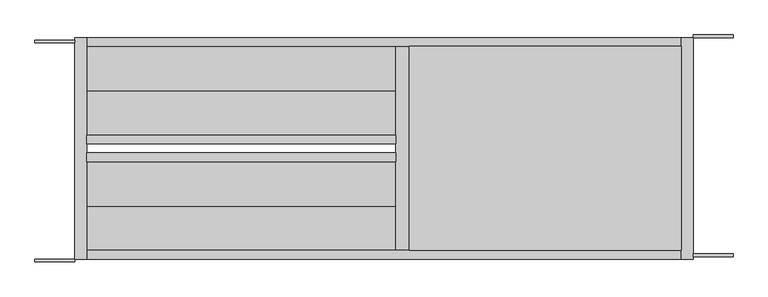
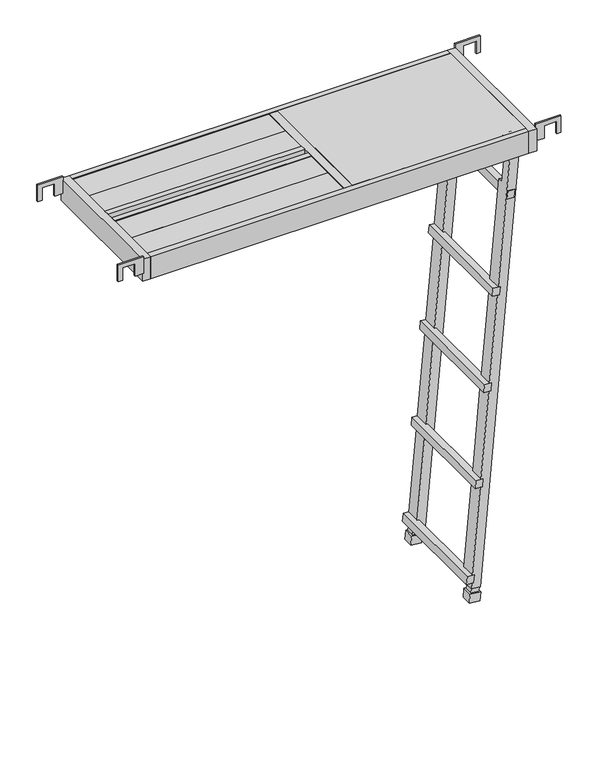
"""IFC4 building model written with IfcOpenShell, lengths in millimetres: proxy geometry, AK_アルミハッチ式布板HF-515HT(タラップ式)_軽 : AK_アルミハッチ式布板HF-515HT(タラップ式)_軽."""

import ifcopenshell
import ifcopenshell.guid

model = None  # the IFC model being written
_history = None  # IfcOwnerHistory: only IFC2X3 demands one
_inside = {}  # id of a spatial element -> (the spatial element, [elements in it])
_under = {}  # id of a project, library or spatial element -> (it, [spatial elements below it])
_declared = {}  # id of a project -> (the project, [libraries it declares])
_typed = {}  # id of a type object -> (the type object, [elements of that type])
_made_of = {}  # id of a material, layer set ... -> (it, [elements and type objects made of it])


def new_model(schema):
    """Start an empty IFC model of exactly this schema.

    Asked for "IFC4X3", IfcOpenShell would pick the latest addendum, in which some entities
    have other attributes; the version numbers below select the first issue.
    IFC2X3 requires an IfcOwnerHistory on every rooted entity: one is made here for all.
    """
    global model, _history
    if schema == "IFC4X3":
        model = ifcopenshell.file(schema_version=(4, 3, 0, 0))
    else:
        model = ifcopenshell.file(schema=schema)
    _inside.clear()
    _under.clear()
    _declared.clear()
    _typed.clear()
    _made_of.clear()
    _history = None
    if model.schema == "IFC2X3":
        org = make("IfcOrganization", Name="unknown")
        user = make(
            "IfcPersonAndOrganization",
            ThePerson=make("IfcPerson", FamilyName="unknown"),
            TheOrganization=org,
        )
        app = make(
            "IfcApplication",
            ApplicationDeveloper=org,
            Version="unknown",
            ApplicationFullName="unknown",
            ApplicationIdentifier="unknown",
        )
        _history = make(
            "IfcOwnerHistory",
            OwningUser=user,
            OwningApplication=app,
            ChangeAction="ADDED",
            CreationDate=0,
        )
    return model


def make(cls, **values):
    """One entity of the class cls with the attributes given. An attribute that is None is left unset."""
    return model.create_entity(
        cls, **{name: value for name, value in values.items() if value is not None}
    )


def rooted(cls, **values):
    """An entity with a GlobalId (a new one), such as an element, a storey or a relation."""
    return make(cls, GlobalId=ifcopenshell.guid.new(), OwnerHistory=_history, **values)


def si_unit(unit_type, name, prefix=None):
    """IfcSIUnit, for example si_unit("LENGTHUNIT", "METRE", prefix="MILLI")."""
    return make("IfcSIUnit", UnitType=unit_type, Prefix=prefix, Name=name)


def assignment(units):
    """IfcUnitAssignment: the units of a project."""
    return None if units is None else make("IfcUnitAssignment", Units=units)


def point(xyz):
    """IfcCartesianPoint."""
    return None if xyz is None else make("IfcCartesianPoint", Coordinates=xyz)


def direction(xyz):
    """IfcDirection."""
    return None if xyz is None else make("IfcDirection", DirectionRatios=xyz)


def frame(location, z_axis=None, x_axis=None):
    """IfcAxis2Placement3D, a coordinate frame: its origin and axes. An axis left out is left unset."""
    return make(
        "IfcAxis2Placement3D",
        Location=point(location),
        Axis=direction(z_axis),
        RefDirection=direction(x_axis),
    )


def origin():
    """The frame at (0, 0, 0) with its axes left unset."""
    return frame((0.0, 0.0, 0.0))


def place(relative_to, where):
    """IfcLocalPlacement: puts the frame where relative to a parent placement (None: the world)."""
    return make(
        "IfcLocalPlacement", PlacementRelTo=relative_to, RelativePlacement=where
    )


def context(
    kind, dimensions, precision=None, world=None, true_north=None, identifier=None
):
    """IfcGeometricRepresentationContext, for example the 3D "Model" context."""
    return make(
        "IfcGeometricRepresentationContext",
        ContextIdentifier=identifier,
        ContextType=kind,
        CoordinateSpaceDimension=dimensions,
        Precision=precision,
        WorldCoordinateSystem=world,
        TrueNorth=true_north,
    )


def project(units=None, contexts=None):
    """IfcProject with its units and contexts."""
    return rooted(
        "IfcProject",
        Name="project",
        RepresentationContexts=contexts,
        UnitsInContext=assignment(units),
    )


def spatial(cls, under=None, at=None, **own):
    """A site, building, storey or space (cls), placed at a placement, below another one or the project."""
    s = rooted(cls, ObjectPlacement=at, **own)
    if under is not None:
        _under.setdefault(under.id(), (under, []))[1].append(s)
    return s


def polyline(points):
    """IfcPolyline through the points."""
    return make("IfcPolyline", Points=[point(p) for p in points])


def circle_curve(where, radius):
    """IfcCircle in the frame where."""
    return make("IfcCircle", Position=where, Radius=radius)


def ellipse_curve(where, semi_axis1, semi_axis2):
    """IfcEllipse in the frame where."""
    return make(
        "IfcEllipse", Position=where, SemiAxis1=semi_axis1, SemiAxis2=semi_axis2
    )


def trimmed(basis, trim1, trim2, sense, master):
    """IfcTrimmedCurve: the piece of a basis curve between two trims."""
    return make(
        "IfcTrimmedCurve",
        BasisCurve=basis,
        Trim1=trim1,
        Trim2=trim2,
        SenseAgreement=sense,
        MasterRepresentation=master,
    )


def outline(outer, holes=None, kind="AREA"):
    """IfcArbitraryClosedProfileDef: a profile drawn as a closed curve; with holes, ...WithVoids."""
    if holes is None:
        return make("IfcArbitraryClosedProfileDef", ProfileType=kind, OuterCurve=outer)
    return make(
        "IfcArbitraryProfileDefWithVoids",
        ProfileType=kind,
        OuterCurve=outer,
        InnerCurves=holes,
    )


def extrude(swept, where, along, depth):
    """IfcExtrudedAreaSolid: the profile swept, set in the frame where, extruded along a direction by depth."""
    return make(
        "IfcExtrudedAreaSolid",
        SweptArea=swept,
        Position=where,
        ExtrudedDirection=direction(along),
        Depth=depth,
    )


def faces_of(points, faces, orient=None, outer=None):
    """IfcFace entities. A face is a list of loops; a loop is a list of indices into points, from 0.

    orient and outer hold one flag for each loop. By default every Orientation is true, the
    first loop of a face is its IfcFaceOuterBound and the others are IfcFaceBound.
    """
    made = []
    for i, loops in enumerate(faces):
        bounds = []
        for j, loop in enumerate(loops):
            is_outer = j == 0 if outer is None else outer[i][j]
            bounds.append(
                make(
                    "IfcFaceOuterBound" if is_outer else "IfcFaceBound",
                    Bound=make("IfcPolyLoop", Polygon=[points[k] for k in loop]),
                    Orientation=True if orient is None else orient[i][j],
                )
            )
        made.append(make("IfcFace", Bounds=bounds))
    return made


def faceted_brep(points, faces, orient=None, outer=None, voids=None):
    """IfcFacetedBrep: a solid bounded by flat faces; with voids (closed shells), ...WithVoids."""
    shared = [point(p) for p in points]
    hull = make("IfcClosedShell", CfsFaces=faces_of(shared, faces, orient, outer))
    if voids is None:
        return make("IfcFacetedBrep", Outer=hull)
    return make(
        "IfcFacetedBrepWithVoids",
        Outer=hull,
        Voids=[
            make(cls, CfsFaces=faces_of(shared, fs, o, b)) for cls, fs, o, b in voids
        ],
    )


def shape(context_of_items, identifier, shape_type, items):
    """IfcShapeRepresentation: the items that make up one representation, for example the "Body"."""
    return make(
        "IfcShapeRepresentation",
        ContextOfItems=context_of_items,
        RepresentationIdentifier=identifier,
        RepresentationType=shape_type,
        Items=items,
    )


def source(mapping_origin, context_of_items, identifier, shape_type, items):
    """IfcRepresentationMap: a shape defined once, which mapped items show again and again."""
    return make(
        "IfcRepresentationMap",
        MappingOrigin=mapping_origin,
        MappedRepresentation=shape(context_of_items, identifier, shape_type, items),
    )


def transform(
    local_origin,
    x_axis=None,
    y_axis=None,
    z_axis=None,
    scale=None,
    scale2=None,
    scale3=None,
    uniform=True,
):
    """IfcCartesianTransformationOperator3D, or its non-uniform kind. x_axis, y_axis, z_axis: its Axis1, 2, 3."""
    if uniform:
        return make(
            "IfcCartesianTransformationOperator3D",
            Axis1=direction(x_axis),
            Axis2=direction(y_axis),
            LocalOrigin=point(local_origin),
            Scale=scale,
            Axis3=direction(z_axis),
        )
    return make(
        "IfcCartesianTransformationOperator3DnonUniform",
        Axis1=direction(x_axis),
        Axis2=direction(y_axis),
        LocalOrigin=point(local_origin),
        Scale=scale,
        Axis3=direction(z_axis),
        Scale2=scale2,
        Scale3=scale3,
    )


def mapped(mapping_source, mapping_target):
    """IfcMappedItem: shows the shape of a source again, moved by a transform."""
    return make(
        "IfcMappedItem", MappingSource=mapping_source, MappingTarget=mapping_target
    )


def made_of(thing, what):
    """Note that an element or type object is made of a material, layer set ...; save() writes the relation."""
    if what is not None:
        _made_of.setdefault(what.id(), (what, []))[1].append(thing)
    return thing


def element(
    cls,
    number,
    at=None,
    inside=None,
    cuts=None,
    type_object=None,
    material=None,
    context=None,
    identifier="Body",
    shape_type=None,
    held_by="IfcProductDefinitionShape",
    body=None,
    shapes=None,
    **own,
):
    """One element of the class cls, such as IfcWall. Its Tag is "e" and its number.

    at: its placement. inside: the storey or other place that contains it. cuts: it is an
    opening in that element (IfcRelVoidsElement). A single representation is given by context,
    identifier, shape_type and body (its items); several are given by shapes. held_by: the class
    of the entity that holds the representations. save() writes the other relations.
    """
    e = rooted(cls, Tag="e%d" % number, ObjectPlacement=at, **own)
    if body is not None:
        shapes = [shape(context, identifier, shape_type, body)]
    if shapes is not None:
        e.Representation = make(held_by, Representations=shapes)
    if inside is not None:
        _inside.setdefault(inside.id(), (inside, []))[1].append(e)
    if cuts is not None:
        rooted(
            "IfcRelVoidsElement", RelatingBuildingElement=cuts, RelatedOpeningElement=e
        )
    if type_object is not None:
        _typed.setdefault(type_object.id(), (type_object, []))[1].append(e)
    return made_of(e, material)


def aggregate(whole, parts):
    """IfcRelAggregates: a whole, such as a stair, and the parts it consists of."""
    return rooted("IfcRelAggregates", RelatingObject=whole, RelatedObjects=parts)


def save(model, path):
    """Write the relations noted so far, then the file.

    IfcRelAggregates (storeys below a building ...), IfcRelContainedInSpatialStructure (elements
    in a storey), IfcRelDefinesByType, IfcRelAssociatesMaterial and IfcRelDeclares: one each for
    every whole, place, type object, material and project.
    """
    for whole, parts in _under.values():
        aggregate(whole, parts)
    for where, things in _inside.values():
        rooted(
            "IfcRelContainedInSpatialStructure",
            RelatedElements=things,
            RelatingStructure=where,
        )
    for kind, things in _typed.values():
        rooted("IfcRelDefinesByType", RelatedObjects=things, RelatingType=kind)
    for what, things in _made_of.values():
        rooted("IfcRelAssociatesMaterial", RelatedObjects=things, RelatingMaterial=what)
    for by, libraries in _declared.values():
        rooted("IfcRelDeclares", RelatingContext=by, RelatedDefinitions=libraries)
    model.write(path)


def plane_surface(at):
    """IfcPlane: the flat surface through the origin of the frame at, square to its z axis."""
    return make("IfcPlane", Position=at)


def cylinder_surface(at, radius):
    """IfcCylindricalSurface: all points at the distance radius from the z axis of the frame at."""
    return make("IfcCylindricalSurface", Position=at, Radius=radius)


def revolved_surface(curve, axis_point, axis_direction):
    """IfcSurfaceOfRevolution: the curve turned about the line through axis_point along axis_direction."""
    return make(
        "IfcSurfaceOfRevolution",
        SweptCurve=make("IfcArbitraryOpenProfileDef", ProfileType="CURVE", Curve=curve),
        AxisPosition=make("IfcAxis1Placement", Location=point(axis_point), Axis=direction(axis_direction)),
    )


def advanced_brep(points, edges, surfaces, faces):
    """IfcAdvancedBrep: a solid bounded by faces that lie on surfaces and meet in shared edges.

    An edge is (start, end): straight between two places in points (the first is 0);
    or (start, end, curve); or (start, end, curve, False) where it runs against its curve.
    A face is (place in surfaces, loops), or (place, loops, False) where it looks against
    its surface's normal. A loop lists edges by number (the first is 1), with a minus sign
    where the edge is run from its end to its start. The first loop is the outer one.
    """
    corners = [point(p) for p in points]
    vertices = [make("IfcVertexPoint", VertexGeometry=c) for c in corners]
    made = []
    for start, end, *more in edges:
        made.append(
            make(
                "IfcEdgeCurve",
                EdgeStart=vertices[start],
                EdgeEnd=vertices[end],
                EdgeGeometry=more[0] if more else make("IfcPolyline", Points=[corners[start], corners[end]]),
                SameSense=more[1] if len(more) > 1 else True,
            )
        )
    hull = []
    for where, loops, *sense in faces:
        bounds = []
        for j, loop in enumerate(loops):
            ring = [make("IfcOrientedEdge", EdgeElement=made[abs(k) - 1], Orientation=k > 0) for k in loop]
            bounds.append(
                make(
                    "IfcFaceOuterBound" if j == 0 else "IfcFaceBound",
                    Bound=make("IfcEdgeLoop", EdgeList=ring),
                    Orientation=True,
                )
            )
        hull.append(make("IfcAdvancedFace", Bounds=bounds, FaceSurface=surfaces[where], SameSense=sense[0] if sense else True))
    return make("IfcAdvancedBrep", Outer=make("IfcClosedShell", CfsFaces=hull))


def generic_models_cbe01f0f(model_context):
    return source(origin(), model_context, "Body", "SolidModel", [
        extrude(outline(polyline([(37.5, 1753.0), (-24.1, 1753.0), (-24.1, 1782.5), (22.0, 1782.5), (22.0, 1827.5), (-24.1, 1827.5), (-24.1, 1842.5), (37.5, 1842.5), (37.5, 1753.0)])), frame((0.0, 12.0, 0.0), z_axis=(0.0, 1.0, 0.0), x_axis=(0.0, 0.0, 1.0)), (0.0, 0.0, 1.0), 6.0),
        extrude(outline(polyline([(37.5, 1753.0), (-24.1, 1753.0), (-24.1, 1782.5), (22.0, 1782.5), (22.0, 1827.5), (-24.1, 1827.5), (-24.1, 1842.5), (37.5, 1842.5), (37.5, 1753.0)])), frame((0.0, 506.0, 0.0), z_axis=(0.0, 1.0, 0.0), x_axis=(0.0, 0.0, 1.0)), (0.0, 0.0, 1.0), 6.0),
        extrude(outline(polyline([(37.5, 267.5), (-24.1, 267.5), (-24.1, 282.5), (22.0, 282.5), (22.0, 327.5), (-24.1, 327.5), (-24.1, 357.0), (37.5, 357.0), (37.5, 267.5)])), frame((0.0, 0.0, 0.0), z_axis=(0.0, 1.0, 0.0), x_axis=(0.0, 0.0, 1.0)), (0.0, 0.0, 1.0), 6.0),
        extrude(outline(polyline([(37.5, 267.5), (-24.1, 267.5), (-24.1, 282.5), (22.0, 282.5), (22.0, 327.5), (-24.1, 327.5), (-24.1, 357.0), (37.5, 357.0), (37.5, 267.5)])), frame((0.0, 494.0, 0.0), z_axis=(0.0, 1.0, 0.0), x_axis=(0.0, 0.0, 1.0)), (0.0, 0.0, 1.0), 6.0),
        faceted_brep([(1696.8713185, 61.0, -7.6736677), (1728.7495289, 61.0, -10.4626497), (1728.7495289, 93.0919881, -10.4626497), (1696.8713185, 93.0919881, -7.6736677), (1679.8863585, 93.0919881, -201.8126482), (1679.881814, 112.0, -201.8645926), (1648.1825575, 112.0, -564.1887524), (1648.1825575, 61.0, -564.1887524), (1645.637585, 61.0, -593.2779206), (1645.637585, 112.0, -593.2779206), (1617.6705824, 112.0, -912.9422232), (1617.6705824, 61.0, -912.9422232), (1615.125634, 61.0, -942.0311166), (1615.125634, 112.0, -942.0311166), (1587.1735374, 112.0, -1261.5250424), (1587.1735374, 61.0, -1261.5250424), (1556.6615624, 61.0, -1610.2785132), (1584.628565, 61.0, -1290.6142106), (1584.628565, 112.0, -1290.6142106), (1556.6615624, 112.0, -1610.2785132), (1556.6615624, 93.00001, -1610.2785132), (1711.7645689, 93.0919881, -204.6016302), (1584.192389, 61.0, -1662.7583192), (1584.192389, 93.00001, -1662.7583192), (1586.0600484, 93.00001, -1641.4108744), (1586.0600484, 112.0, -1641.4108744), (1711.7600244, 112.0, -204.6535747), (1654.5661476, 61.0, -564.7472484), (1652.0211838, 61.0, -593.8364099), (1624.0616404, 61.0, -913.5013643), (1621.5166964, 61.0, -942.5902671), (1593.5571276, 61.0, -1262.0835385), (1591.0121638, 61.0, -1291.1726999), (1563.0526204, 61.0, -1610.8376544), (1560.5076764, 61.0, -1639.9265572), (1554.116614, 61.0, -1639.3674066), (1552.3141786, 61.0, -1659.9693372), (1703.6340459, 61.0, -247.3533265), (1678.5299581, 61.0, -245.1569836), (1681.0749042, 61.0, -216.0681164), (1706.1789951, 61.0, -218.2644242), (1560.5729007, 112.0, -1639.1810379), (1563.0526204, 112.0, -1610.8376544), (1591.0121638, 112.0, -1291.1726999), (1593.5571276, 112.0, -1262.0835385), (1621.5166964, 112.0, -942.5902671), (1624.0616404, 112.0, -913.5013643), (1652.0211838, 112.0, -593.8364099), (1654.5661476, 112.0, -564.7472484), (1678.5299581, 112.0, -245.1569836), (1703.6340459, 112.0, -247.3533265), (1706.1789951, 112.0, -218.2644242), (1681.0749042, 112.0, -216.0681164), (1560.5729007, 93.00001, -1639.1810379), (1586.0603597, 400.0, -1641.4109016), (1711.7603356, 400.0, -204.6536019), (1679.8818139, 400.0, -201.8645926), (1648.1825574, 400.0, -564.1887524), (1654.5661476, 400.0, -564.7472484), (1652.0211838, 400.0, -593.8364099), (1645.637585, 400.0, -593.2779206), (1617.6705824, 400.0, -912.9422232), (1624.0616404, 400.0, -913.5013643), (1621.5166964, 400.0, -942.5902671), (1615.125634, 400.0, -942.0311166), (1587.1735374, 400.0, -1261.5250424), (1593.5571276, 400.0, -1262.0835385), (1591.0121638, 400.0, -1291.1726999), (1584.6285649, 400.0, -1290.6142106), (1556.6615623, 400.0, -1610.2785132), (1563.0526204, 400.0, -1610.8376544), (1560.5729007, 400.0, -1639.1810379), (1703.6340459, 400.0, -247.3533265), (1678.5299581, 400.0, -245.1569836), (1681.0749042, 400.0, -216.0681164), (1706.1789951, 400.0, -218.2644242), (1696.8713185, 451.0, -7.6736677), (1728.7495289, 451.0, -10.4626497), (1584.3535869, 451.0, -1660.9158185), (1552.4753765, 451.0, -1658.1268364), (1554.116614, 451.0, -1639.3674066), (1560.5076764, 451.0, -1639.9265572), (1563.0526204, 451.0, -1610.8376544), (1556.6615623, 451.0, -1610.2785132), (1584.6285649, 451.0, -1290.6142106), (1591.0121638, 451.0, -1291.1726999), (1593.5571276, 451.0, -1262.0835385), (1587.1735374, 451.0, -1261.5250424), (1615.125634, 451.0, -942.0311166), (1621.5166964, 451.0, -942.5902671), (1624.0616404, 451.0, -913.5013643), (1617.6705824, 451.0, -912.9422232), (1645.637585, 451.0, -593.2779206), (1652.0211838, 451.0, -593.8364099), (1654.5661476, 451.0, -564.7472484), (1648.1825575, 451.0, -564.1887524), (1678.5299581, 451.0, -245.1569836), (1703.6340459, 451.0, -247.3533265), (1706.1789951, 451.0, -218.2644242), (1681.0749042, 451.0, -216.0681164), (1696.8713184, 418.9080119, -7.6736677), (1679.8818139, 418.9080119, -201.8645926), (1556.6615623, 418.99999, -1610.2785132), (1560.5729007, 418.99999, -1639.1810379), (1586.0603597, 418.99999, -1641.4109016), (1584.3538982, 418.99999, -1660.9158457), (1728.7498401, 418.9080119, -10.4626769), (1711.7648802, 418.9080119, -204.6016575), (1703.6340459, 452.0, -247.3533265), (1678.5299581, 452.0, -245.1569836), (1681.0749042, 452.0, -216.0681164), (1706.1789951, 452.0, -218.2644242), (1703.6340459, 60.0, -247.3533265), (1706.1789951, 60.0, -218.2644242), (1681.0749042, 60.0, -216.0681164), (1678.5299581, 60.0, -245.1569836), (1626.9170612, 60.0, -591.6400965), (1652.0211838, 60.0, -593.8364099), (1654.5661476, 60.0, -564.7472484), (1629.4620596, 60.0, -562.5509084), (1626.9170612, 452.0, -591.6400965), (1629.4620596, 452.0, -562.5509084), (1654.5661476, 452.0, -564.7472484), (1652.0211838, 452.0, -593.8364099), (1598.9575496, 60.0, -911.3050566), (1596.4125766, 60.0, -940.3939214), (1621.5166964, 60.0, -942.5902671), (1624.0616404, 60.0, -913.5013643), (1598.9575496, 452.0, -911.3050566), (1624.0616404, 452.0, -913.5013643), (1621.5166964, 452.0, -942.5902671), (1596.4125766, 452.0, -940.3939214), (1568.4530396, 60.0, -1259.8871984), (1565.9080412, 60.0, -1288.9763865), (1591.0121638, 60.0, -1291.1726999), (1593.5571276, 60.0, -1262.0835385), (1568.4530396, 452.0, -1259.8871984), (1593.5571276, 452.0, -1262.0835385), (1591.0121638, 452.0, -1291.1726999), (1565.9080412, 452.0, -1288.9763865), (1537.9485296, 60.0, -1608.6413466), (1535.4035566, 60.0, -1637.7302115), (1560.5076764, 60.0, -1639.9265572), (1563.0526204, 60.0, -1610.8376544), (1537.9485296, 452.0, -1608.6413466), (1563.0526204, 452.0, -1610.8376544), (1560.5076764, 452.0, -1639.9265572), (1535.4035566, 452.0, -1637.7302115), (1554.116614, 418.99999, -1639.3674066), (1560.5076764, 418.99999, -1639.9265572), (1560.5076764, 93.00001, -1639.9265572), (1554.116614, 93.00001, -1639.3674066), (1552.4753765, 418.99999, -1658.1268364), (1552.3141786, 93.00001, -1659.9693372)], [[[0, 1, 2, 3]], [[0, 3, 4, 5, 6, 7]], [[8, 9, 10, 11]], [[12, 13, 14, 15]], [[16, 17, 18, 19, 20]], [[3, 2, 21, 4]], [[2, 1, 22, 23, 24, 25, 26, 21]], [[22, 1, 0, 7, 27, 28, 8, 11, 29, 30, 12, 15, 31, 32, 17, 16, 33, 34, 35, 36], [37, 38, 39, 40]], [[5, 26, 25, 41, 42, 19, 18, 43, 44, 14, 13, 45, 46, 10, 9, 47, 48, 6], [49, 50, 51, 52]], [[41, 25, 24, 53]], [[26, 5, 4, 21]], [[54, 55, 56, 57, 58, 59, 60, 61, 62, 63, 64, 65, 66, 67, 68, 69, 70, 71], [72, 73, 74, 75]], [[76, 77, 78, 79, 80, 81, 82, 83, 84, 85, 86, 87, 88, 89, 90, 91, 92, 93, 94, 95], [96, 97, 98, 99]], [[100, 76, 95, 57, 56, 101]], [[60, 92, 91, 61]], [[64, 88, 87, 65]], [[68, 84, 83, 102, 69]], [[54, 71, 103, 104]], [[55, 54, 104, 105, 78, 77, 106, 107]], [[56, 55, 107, 101]], [[108, 109, 110, 111]], [[112, 113, 114, 115]], [[109, 108, 97, 96]], [[112, 115, 38, 37]], [[72, 50, 49, 73]], [[110, 109, 96, 99]], [[115, 114, 39, 38]], [[73, 49, 52, 74]], [[111, 110, 99, 98]], [[114, 113, 40, 39]], [[74, 52, 51, 75]], [[108, 111, 98, 97]], [[113, 112, 37, 40]], [[50, 72, 75, 51]], [[76, 100, 106, 77]], [[106, 100, 101, 107]], [[116, 117, 118, 119]], [[120, 121, 122, 123]], [[117, 116, 120, 123, 93, 92, 60, 59, 47, 9, 8, 28]], [[118, 117, 28, 27]], [[123, 122, 94, 93]], [[47, 59, 58, 48]], [[119, 118, 27, 7, 6, 48, 58, 57, 95, 94, 122, 121]], [[116, 119, 121, 120]], [[124, 125, 126, 127]], [[128, 129, 130, 131]], [[125, 124, 128, 131]], [[126, 125, 131, 130, 89, 88, 64, 63, 45, 13, 12, 30]], [[127, 126, 30, 29]], [[130, 129, 90, 89]], [[45, 63, 62, 46]], [[124, 127, 29, 11, 10, 46, 62, 61, 91, 90, 129, 128]], [[132, 133, 134, 135]], [[136, 137, 138, 139]], [[133, 132, 136, 139]], [[134, 133, 139, 138, 85, 84, 68, 67, 43, 18, 17, 32]], [[135, 134, 32, 31]], [[138, 137, 86, 85]], [[43, 67, 66, 44]], [[132, 135, 31, 15, 14, 44, 66, 65, 87, 86, 137, 136]], [[140, 141, 142, 143]], [[144, 145, 146, 147]], [[141, 140, 144, 147]], [[142, 141, 147, 146, 81, 80, 148, 149, 150, 151, 35, 34]], [[143, 142, 34, 33]], [[146, 145, 82, 81]], [[70, 42, 41, 53, 150, 149, 103, 71]], [[140, 143, 33, 16, 20, 19, 42, 70, 69, 102, 83, 82, 145, 144]], [[78, 105, 152, 79]], [[79, 152, 148, 80]], [[152, 105, 104, 103, 149, 148]], [[22, 36, 153, 23]], [[153, 36, 35, 151]], [[23, 153, 151, 150, 53, 24]]]),
        advanced_brep(
        [(1691.4537998, 26.0, -30.0), (1683.4537998, 26.0, -30.0), (1683.4537998, 90.1689973, -30.0), (1691.4537998, 90.1689973, -30.0), (1703.8086099, 102.5238074, -30.0), (1703.8086099, 110.5238074, -30.0), (1718.8086099, 102.5238074, -30.0), (1718.8086099, 110.5238074, -30.0)],
        [
            (0, 1, circle_curve(frame((1687.4537998, 26.0, -30.0), z_axis=(0.0, -1.0, 0.0), x_axis=(-1.0, 0.0, 0.0)), 4.0)),
            (1, 0, circle_curve(frame((1687.4537998, 26.0, -30.0), z_axis=(0.0, -1.0, 0.0), x_axis=(-1.0, 0.0, 0.0)), 4.0)),
            (1, 2),
            (2, 3, circle_curve(frame((1687.4537998, 90.1689973, -30.0), z_axis=(0.0, -1.0, 0.0), x_axis=(-1.0, 0.0, 0.0)), 4.0)),
            (3, 0),
            (3, 2, circle_curve(frame((1687.4537998, 90.1689973, -30.0), z_axis=(0.0, -1.0, 0.0), x_axis=(-1.0, 0.0, 0.0)), 4.0)),
            (4, 3, circle_curve(frame((1703.8086099, 90.1689973, -30.0), z_axis=(0.0, 0.0, 1.0), x_axis=(-1.0, 0.0, 0.0)), 12.35481)),
            (2, 5, circle_curve(frame((1703.8086099, 90.1689973, -30.0), z_axis=(0.0, 0.0, -1.0), x_axis=(-1.0, 0.0, 0.0)), 20.35481)),
            (5, 4, circle_curve(frame((1703.8086099, 106.5238074, -30.0), z_axis=(-1.0, 0.0, 0.0), x_axis=(0.0, 1.0, 0.0)), 4.0)),
            (4, 5, circle_curve(frame((1703.8086099, 106.5238074, -30.0), z_axis=(-1.0, 0.0, 0.0), x_axis=(0.0, 1.0, 0.0)), 4.0)),
            (6, 7, circle_curve(frame((1718.8086099, 106.5238074, -30.0), z_axis=(1.0, 0.0, 0.0), x_axis=(0.0, 1.0, 0.0)), 4.0)),
            (7, 6, circle_curve(frame((1718.8086099, 106.5238074, -30.0), z_axis=(1.0, 0.0, 0.0), x_axis=(0.0, 1.0, 0.0)), 4.0)),
            (5, 7),
            (6, 4),
        ],
        [
            plane_surface(frame((1687.4537998, 26.0, -30.0), z_axis=(0.0, -1.0, 0.0), x_axis=(0.0, 0.0, 1.0))),
            cylinder_surface(frame((1687.4537998, 26.0, -30.0), z_axis=(0.0, -1.0, 0.0), x_axis=(-1.0, 0.0, 0.0)), 4.0),
            revolved_surface(trimmed(ellipse_curve(frame((1687.4537998, 90.1689973, -30.0), z_axis=(0.0, -1.0, 0.0), x_axis=(-1.0, 0.0, 0.0)), 4.0, 4.0), [point((1683.4537998, 90.1689973, -30.0))], [point((1691.4537998, 90.1689973, -30.0))], True, "CARTESIAN"), (1703.8086099, 90.1689973, -30.0), (0.0, 0.0, -1.0)),
            revolved_surface(trimmed(ellipse_curve(frame((1687.4537998, 90.1689973, -30.0), z_axis=(0.0, -1.0, 0.0), x_axis=(-1.0, 0.0, 0.0)), 4.0, 4.0), [point((1691.4537998, 90.1689973, -30.0))], [point((1683.4537998, 90.1689973, -30.0))], True, "CARTESIAN"), (1703.8086099, 90.1689973, -30.0), (0.0, 0.0, -1.0)),
            plane_surface(frame((1718.8086099, 106.5238074, -30.0), z_axis=(1.0, 0.0, 0.0), x_axis=(0.0, 0.0, 1.0))),
            cylinder_surface(frame((1703.8086099, 106.5238074, -30.0), z_axis=(-1.0, 0.0, 0.0), x_axis=(0.0, 1.0, 0.0)), 4.0),
        ],
        [
            (0, [[1, 2]]),
            (1, [[-2, 3, 4, 5]]),
            (1, [[-1, -5, 6, -3]]),
            (2, [[7, -4, 8, 9]]),
            (3, [[-8, -6, -7, 10]]),
            (4, [[11, 12]]),
            (5, [[-9, 13, -11, 14]]),
            (5, [[-10, -14, -12, -13]]),
        ],
    ),
        advanced_brep(
        [(1683.4537998, 486.0, -30.0), (1691.4537998, 486.0, -30.0), (1683.4537998, 421.8310027, -30.0), (1691.4537998, 421.8310027, -30.0), (1703.8086099, 409.4761926, -30.0), (1703.8086099, 401.4761926, -30.0), (1718.8086099, 401.4761926, -30.0), (1718.8086099, 409.4761926, -30.0)],
        [
            (0, 1, circle_curve(frame((1687.4537998, 486.0, -30.0), z_axis=(0.0, 1.0, 0.0), x_axis=(1.0, 0.0, 0.0)), 4.0)),
            (1, 0, circle_curve(frame((1687.4537998, 486.0, -30.0), z_axis=(0.0, 1.0, 0.0), x_axis=(1.0, 0.0, 0.0)), 4.0)),
            (0, 2),
            (2, 3, circle_curve(frame((1687.4537998, 421.8310027, -30.0), z_axis=(0.0, 1.0, 0.0), x_axis=(1.0, 0.0, 0.0)), 4.0)),
            (3, 1),
            (3, 2, circle_curve(frame((1687.4537998, 421.8310027, -30.0), z_axis=(0.0, 1.0, 0.0), x_axis=(1.0, 0.0, 0.0)), 4.0)),
            (4, 3, circle_curve(frame((1703.8086099, 421.8310027, -30.0), z_axis=(0.0, 0.0, -1.0), x_axis=(-1.0, 0.0, 0.0)), 12.35481)),
            (2, 5, circle_curve(frame((1703.8086099, 421.8310027, -30.0), z_axis=(0.0, 0.0, 1.0), x_axis=(-1.0, 0.0, 0.0)), 20.35481)),
            (5, 4, circle_curve(frame((1703.8086099, 405.4761926, -30.0), z_axis=(-1.0, 0.0, 0.0), x_axis=(0.0, 1.0, 0.0)), 4.0)),
            (4, 5, circle_curve(frame((1703.8086099, 405.4761926, -30.0), z_axis=(-1.0, 0.0, 0.0), x_axis=(0.0, 1.0, 0.0)), 4.0)),
            (6, 7, circle_curve(frame((1718.8086099, 405.4761926, -30.0), z_axis=(1.0, 0.0, 0.0), x_axis=(0.0, 1.0, 0.0)), 4.0)),
            (7, 6, circle_curve(frame((1718.8086099, 405.4761926, -30.0), z_axis=(1.0, 0.0, 0.0), x_axis=(0.0, 1.0, 0.0)), 4.0)),
            (5, 6),
            (7, 4),
        ],
        [
            plane_surface(frame((1687.4537998, 486.0, -30.0), z_axis=(0.0, 1.0, 0.0), x_axis=(0.0, 0.0, 1.0))),
            cylinder_surface(frame((1687.4537998, 486.0, -30.0), z_axis=(0.0, 1.0, 0.0), x_axis=(1.0, 0.0, 0.0)), 4.0),
            revolved_surface(trimmed(ellipse_curve(frame((1687.4537998, 421.8310027, -30.0), z_axis=(0.0, 1.0, 0.0), x_axis=(1.0, 0.0, 0.0)), 4.0, 4.0), [point((1683.4537998, 421.8310027, -30.0))], [point((1691.4537998, 421.8310027, -30.0))], True, "CARTESIAN"), (1703.8086099, 421.8310027, -30.0), (0.0, 0.0, 1.0)),
            revolved_surface(trimmed(ellipse_curve(frame((1687.4537998, 421.8310027, -30.0), z_axis=(0.0, 1.0, 0.0), x_axis=(1.0, 0.0, 0.0)), 4.0, 4.0), [point((1691.4537998, 421.8310027, -30.0))], [point((1683.4537998, 421.8310027, -30.0))], True, "CARTESIAN"), (1703.8086099, 421.8310027, -30.0), (0.0, 0.0, 1.0)),
            plane_surface(frame((1718.8086099, 405.4761926, -30.0), z_axis=(1.0, 0.0, 0.0), x_axis=(0.0, 0.0, 1.0))),
            cylinder_surface(frame((1703.8086099, 405.4761926, -30.0), z_axis=(-1.0, 0.0, 0.0), x_axis=(0.0, 1.0, 0.0)), 4.0),
        ],
        [
            (0, [[1, 2]]),
            (1, [[-1, 3, 4, 5]]),
            (1, [[-2, -5, 6, -3]]),
            (2, [[7, -4, 8, 9]]),
            (3, [[-8, -6, -7, 10]]),
            (4, [[11, 12]]),
            (5, [[-9, 13, -12, 14]]),
            (5, [[-10, -14, -11, -13]]),
        ],
    ),
        extrude(outline(polyline([(0.0, 0.0), (36.2320505, 0.0), (36.2320505, -37.6491626), (0.0, -37.6491626), (0.0, 0.0)])), frame((1581.7880686, 453.2223742, -1712.979101), z_axis=(0.08715574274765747, 0.0, 0.9961946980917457), x_axis=(0.0, -1.0, 0.0)), (0.0, 0.0, 1.0), 32.7312455),
        extrude(outline(polyline([(49.0120246, 0.0), (86.6611873, 0.0), (86.6611873, -36.2320505), (49.0120246, -36.2320505), (49.0120246, 0.0)])), frame((1630.6135877, 58.7776258, -1717.2507804), z_axis=(0.08715574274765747, 0.0, 0.9961946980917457), x_axis=(-0.9961946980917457, 0.0, 0.08715574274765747)), (0.0, 0.0, 1.0), 32.7312455),
        extrude(outline(polyline([(0.0, 0.0), (28.1293092, 0.0), (28.1293092, -28.1661485), (0.0, -28.1661485), (0.0, 0.0)])), frame((1580.7901708, 449.0672328, -1680.0355227), z_axis=(0.08715574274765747, 0.0, 0.9961946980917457), x_axis=(0.0, -1.0, 0.0)), (0.0, 0.0, 1.0), 19.3575202),
        extrude(outline(polyline([(20.3901804, 0.0), (48.5563289, 0.0), (48.5563289, -28.1293092), (20.3901804, -28.1293092), (20.3901804, 0.0)])), frame((1601.1027604, 62.9327672, -1681.812644), z_axis=(0.08715574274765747, 0.0, 0.9961946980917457), x_axis=(-0.9961946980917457, 0.0, 0.08715574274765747)), (0.0, 0.0, 1.0), 17.5079813),
        extrude(outline(polyline([(1725.0, 486.0), (1725.0, 26.0), (1112.0, 26.0), (1112.0, 486.0), (1725.0, 486.0)])), frame((0.0, 0.0, 22.5), z_axis=(0.0, 0.0, 1.0), x_axis=(1.0, 0.0, 0.0)), (0.0, 0.0, 1.0), 2.5),
        extrude(outline(polyline([(1112.0, 26.0), (1081.80002, 26.0), (1081.80002, 486.0), (1112.0, 486.0), (1112.0, 26.0)])), frame((0.0, 0.0, -20.0), z_axis=(0.0, 0.0, 1.0), x_axis=(1.0, 0.0, 0.0)), (0.0, 0.0, 1.0), 44.1),
        extrude(outline(polyline([(1081.80002, 486.0), (1081.80002, 386.0), (385.0, 386.0), (385.0, 486.0), (1081.80002, 486.0)])), frame((0.0, 0.0, 17.5), z_axis=(0.0, 0.0, 1.0), x_axis=(1.0, 0.0, 0.0)), (0.0, 0.0, 1.0), 5.0),
        extrude(outline(polyline([(1081.80002, 386.0), (1081.80002, 286.0), (385.0, 286.0), (385.0, 386.0), (1081.80002, 386.0)])), frame((0.0, 0.0, 17.5), z_axis=(0.0, 0.0, 1.0), x_axis=(1.0, 0.0, 0.0)), (0.0, 0.0, 1.0), 5.0),
        extrude(outline(polyline([(1081.80002, 226.0), (1081.80002, 126.0), (385.0, 126.0), (385.0, 226.0), (1081.80002, 226.0)])), frame((0.0, 0.0, 17.5), z_axis=(0.0, 0.0, 1.0), x_axis=(1.0, 0.0, 0.0)), (0.0, 0.0, 1.0), 5.0),
        extrude(outline(polyline([(1081.80002, 126.0), (1081.80002, 26.0), (385.0, 26.0), (385.0, 126.0), (1081.80002, 126.0)])), frame((0.0, 0.0, 17.5), z_axis=(0.0, 0.0, 1.0), x_axis=(1.0, 0.0, 0.0)), (0.0, 0.0, 1.0), 5.0),
        extrude(outline(polyline([(1081.80002, 286.0), (1081.80002, 266.0), (385.0, 266.0), (385.0, 286.0), (1081.80002, 286.0)])), frame((0.0, 0.0, -20.0), z_axis=(0.0, 0.0, 1.0), x_axis=(1.0, 0.0, 0.0)), (0.0, 0.0, 1.0), 45.0),
        extrude(outline(polyline([(1081.80002, 246.0), (1081.80002, 226.0), (385.0, 226.0), (385.0, 246.0), (1081.80002, 246.0)])), frame((0.0, 0.0, -20.0), z_axis=(0.0, 0.0, 1.0), x_axis=(1.0, 0.0, 0.0)), (0.0, 0.0, 1.0), 45.0),
        extrude(outline(polyline([(1725.0, 6.0), (1725.0, 506.0), (1753.0, 506.0), (1753.0, 6.0), (1725.0, 6.0)])), frame((0.0, 0.0, -58.0), z_axis=(0.0, 0.0, 1.0), x_axis=(1.0, 0.0, 0.0)), (0.0, 0.0, 1.0), 83.0),
        extrude(outline(polyline([(357.0, 6.0), (357.0, 506.0), (385.0, 506.0), (385.0, 6.0), (357.0, 6.0)])), frame((0.0, 0.0, -58.0), z_axis=(0.0, 0.0, 1.0), x_axis=(1.0, 0.0, 0.0)), (0.0, 0.0, 1.0), 83.0),
        extrude(outline(polyline([(1725.0, 506.0), (1725.0, 486.0), (385.0, 486.0), (385.0, 506.0), (1725.0, 506.0)])), frame((0.0, 0.0, -58.0), z_axis=(0.0, 0.0, 1.0), x_axis=(1.0, 0.0, 0.0)), (0.0, 0.0, 1.0), 83.0),
        extrude(outline(polyline([(1725.0, 26.0), (1725.0, 6.0), (385.0, 6.0), (385.0, 26.0), (1725.0, 26.0)])), frame((0.0, 0.0, -58.0), z_axis=(0.0, 0.0, 1.0), x_axis=(1.0, 0.0, 0.0)), (0.0, 0.0, 1.0), 83.0),
    ])


if __name__ == "__main__":
    model = new_model("IFC4")
    model_context = context("Model", 3, world=origin())
    ifc_project = project(units=[si_unit("LENGTHUNIT", "METRE", prefix="MILLI")], contexts=[model_context])
    site = spatial("IfcSite", under=ifc_project)
    building = spatial("IfcBuilding", under=site)
    placement = place(None, origin())
    generic_models_shape = generic_models_cbe01f0f(model_context)
    element("IfcBuildingElementProxy", 1, Name="AK_アルミハッチ式布板HF-515HT(タラップ式)_軽 : AK_アルミハッチ式布板HF-515HT(タラップ式)_軽", ObjectType="AK_アルミハッチ式布板HF-515HT(タラップ式)_軽 : AK_アルミハッチ式布板HF-515HT(タラップ式)_軽", at=placement, inside=building, context=model_context, shape_type="MappedRepresentation", body=[
        mapped(generic_models_shape, transform((0.0, 0.0, 0.0), x_axis=(1.0, 0.0, 0.0), y_axis=(0.0, 1.0, 0.0), z_axis=(0.0, 0.0, 1.0))),
    ])
    save(model, "model.ifc")
